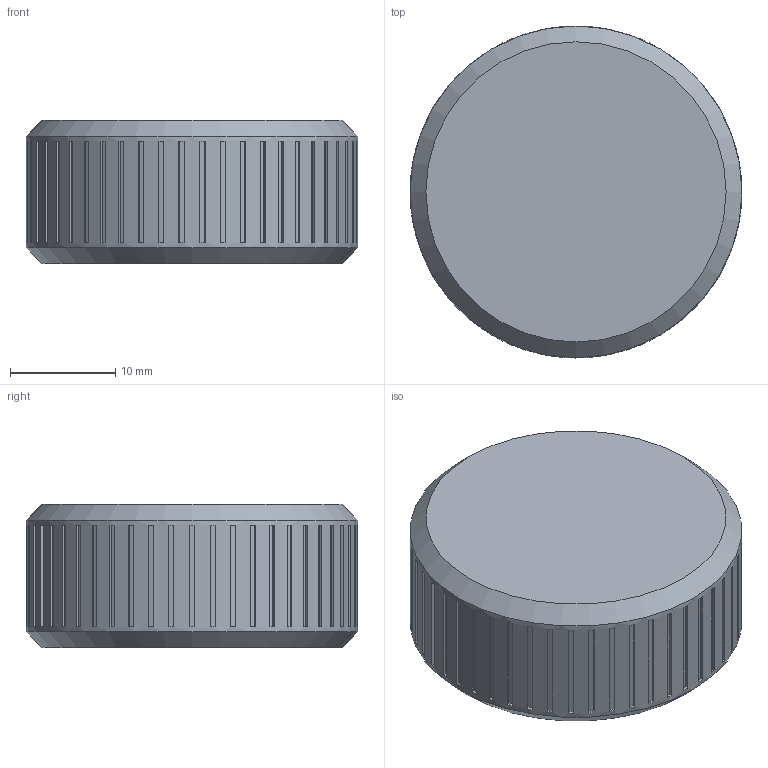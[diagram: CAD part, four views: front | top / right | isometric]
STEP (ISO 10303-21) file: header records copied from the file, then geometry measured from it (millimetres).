
FILE_DESCRIPTION(/* description */ ('STEP AP242','CAx-IF Rec.Pracs.---Representation and Presentation of Product Manufacturing Information (PMI)---4.0---2014-10-13','CAx-IF Rec.Pracs.---3D Tessellated Geometry---0.4---2014-09-14','2;1'),/* implementation_level */ '2;1');
FILE_NAME(/* name */ '687e6ac8f344454910d47c4f',/* time_stamp */ '2025-07-21T16:28:57Z',/* author */ (''),/* organization */ (''),/* preprocessor_version */ 'ST-DEVELOPER v20',/* originating_system */ 'ONSHAPE BY PTC INC, 1.201',/* authorisation */ ' ');
FILE_SCHEMA (('AP242_MANAGED_MODEL_BASED_3D_ENGINEERING_MIM_LF { 1 0 10303 442 1 1 4 }'));
Length unit declared in the file: metre
Products named in the file (1): Rotary Knob
Bounding box: 31.5 x 31.5 x 13.6 mm (x, y, z)
Volume: 10044 mm3; surface area: 3165.1 mm2
Topology: 1 solids, 1 shells, 265 faces, 632 edges, 420 vertices
Faces by surface type: plane 210, cylinder 53, cone 2
Full cylindrical faces by diameter (mm): 6.4 x1, 31.5 x1
Entity records: 7681 total; most frequent: DIRECTION 1365, CARTESIAN_POINT 1309, ORIENTED_EDGE 1250, EDGE_CURVE 625, AXIS2_PLACEMENT_3D 474, VERTEX_POINT 418, LINE 417, VECTOR 417
